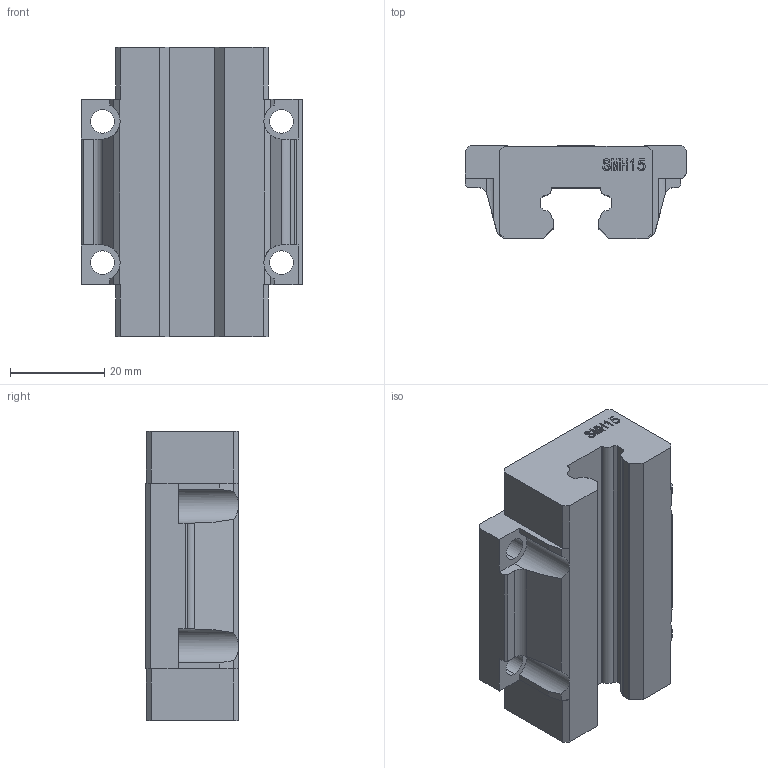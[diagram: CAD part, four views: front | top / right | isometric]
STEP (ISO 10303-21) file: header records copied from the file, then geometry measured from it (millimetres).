
FILE_DESCRIPTION (( 'STEP AP203' ), '1' );
FILE_NAME ('SMH15A.stp', '2019-09-21T08:58:38', ( 'pgos' ), ( '' ), 'SwSTEP 2.0', 'SolidWorks 2014', '' );
FILE_SCHEMA (( 'CONFIG_CONTROL_DESIGN' ));
Length unit declared in the file: millimetre
Products named in the file (1): SMH15A
Bounding box: 47 x 19.7 x 61.4 mm (x, y, z)
Volume: 35522.8 mm3; surface area: 10557.7 mm2
Topology: 1 solids, 1 shells, 177 faces, 502 edges, 332 vertices
Faces by surface type: plane 133, cylinder 26, bspline 18
Entity records: 6981 total; most frequent: CARTESIAN_POINT 2418, ORIENTED_EDGE 1004, DIRECTION 818, EDGE_CURVE 502, VECTOR 394, LINE 394, VERTEX_POINT 332, AXIS2_PLACEMENT_3D 212
